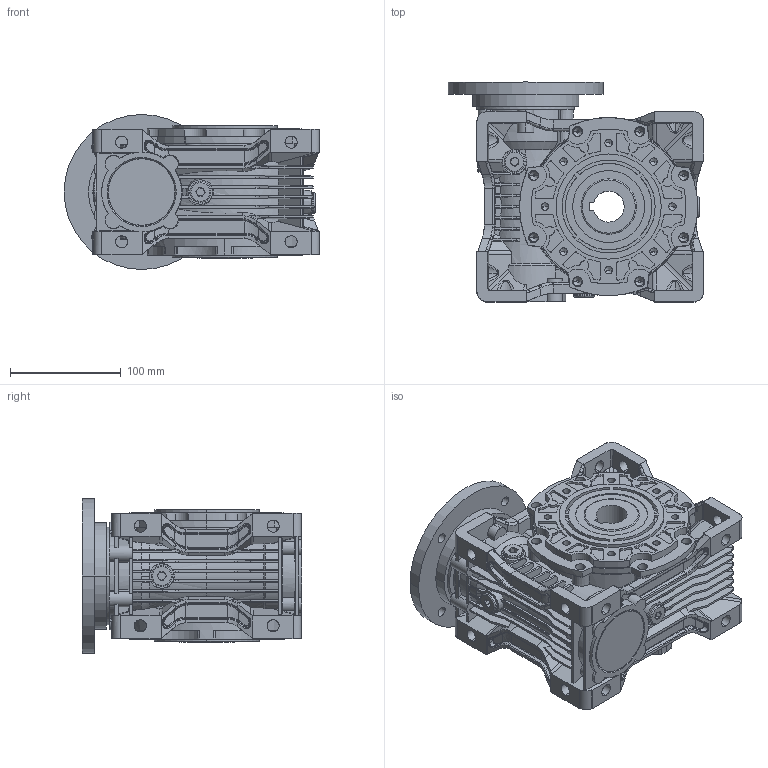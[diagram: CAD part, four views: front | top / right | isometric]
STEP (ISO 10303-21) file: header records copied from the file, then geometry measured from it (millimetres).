
FILE_DESCRIPTION (( 'STEP AP203' ), '1' );
FILE_NAME ('NMRV75-90B14.STEP', '2018-11-30T07:29:31', ( '微软中国' ), ( '微软中国' ), 'SwSTEP 2.0', 'SolidWorks 2016', '' );
FILE_SCHEMA (( 'CONFIG_CONTROL_DESIGN' ));
Length unit declared in the file: millimetre
Products named in the file (1): NMRV75-90B14
Bounding box: 231 x 198.5 x 140 mm (x, y, z)
Volume: 1713115.6 mm3; surface area: 479246.6 mm2
Topology: 7 solids, 8 shells, 2955 faces, 8153 edges, 5249 vertices
Faces by surface type: cylinder 1194, plane 1034, bspline 386, cone 315, torus 26
Entity records: 136108 total; most frequent: CARTESIAN_POINT 69776, ORIENTED_EDGE 16200, DIRECTION 10502, EDGE_CURVE 8100, VERTEX_POINT 5249, AXIS2_PLACEMENT_3D 3790, B_SPLINE_CURVE_WITH_KNOTS 3598, EDGE_LOOP 3105
